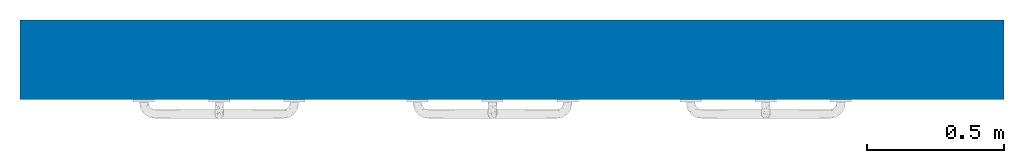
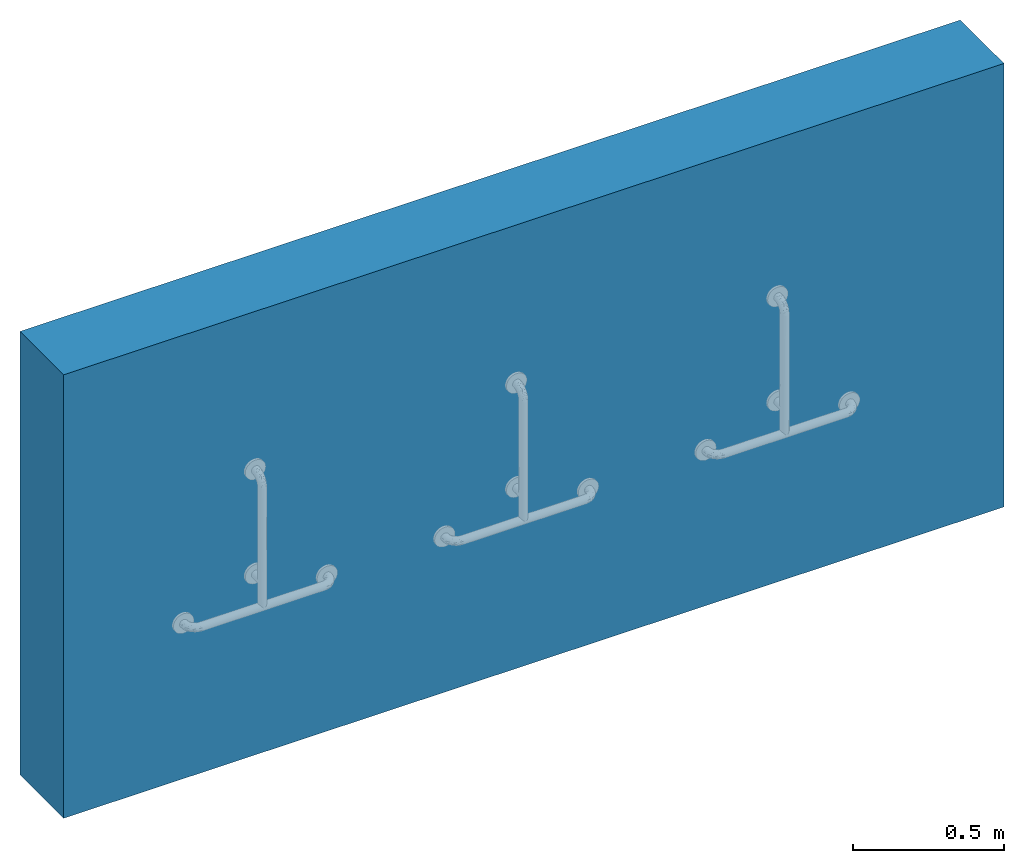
# One storey, incomplete: 1 wall.
"""IFC2X3 building model written with IfcOpenShell, lengths in millimetres."""

from ifc_helpers import new_model, entity, si_unit, converted_unit, derived_unit, direction, frame, frame_2d, origin, place, context, subcontext, project, spatial, rectangle, extrude, material, layer, layer_set, layer_usage, type_object, element, save


model = new_model("IFC2X3")

# Units and contexts
model_context = context("Model", 3, precision=0.01, world=origin(), true_north=direction((6.12303176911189e-17, 1.0)))
context_of_model = context(None, 3, precision=0.01, world=origin(), true_north=direction((6.12303176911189e-17, 1.0)))
body_context = subcontext(model_context, "Body", "Model", "MODEL_VIEW")
ifc_project = project(units=[si_unit("LENGTHUNIT", "METRE", prefix="MILLI"), si_unit("AREAUNIT", "SQUARE_METRE"), si_unit("VOLUMEUNIT", "CUBIC_METRE"), converted_unit("PLANEANGLEUNIT", "DEGREE", entity("IfcRatioMeasure", 0.0174532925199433), si_unit("PLANEANGLEUNIT", "RADIAN"), dimensions=[0, 0, 0, 0, 0, 0, 0]), si_unit("MASSUNIT", "GRAM", prefix="KILO"), derived_unit("MASSDENSITYUNIT", [(si_unit("MASSUNIT", "GRAM", prefix="KILO"), 1), (si_unit("LENGTHUNIT", "METRE"), -3)]), si_unit("TIMEUNIT", "SECOND"), si_unit("FREQUENCYUNIT", "HERTZ"), si_unit("THERMODYNAMICTEMPERATUREUNIT", "DEGREE_CELSIUS"), derived_unit("THERMALTRANSMITTANCEUNIT", [(si_unit("MASSUNIT", "GRAM", prefix="KILO"), 1), (si_unit("THERMODYNAMICTEMPERATUREUNIT", "KELVIN"), -1), (si_unit("TIMEUNIT", "SECOND"), -3)]), derived_unit("VOLUMETRICFLOWRATEUNIT", [(si_unit("LENGTHUNIT", "METRE"), 3), (si_unit("TIMEUNIT", "SECOND"), -1)]), si_unit("ELECTRICCURRENTUNIT", "AMPERE"), si_unit("ELECTRICVOLTAGEUNIT", "VOLT"), si_unit("POWERUNIT", "WATT"), si_unit("FORCEUNIT", "NEWTON", prefix="KILO"), si_unit("ILLUMINANCEUNIT", "LUX"), si_unit("LUMINOUSFLUXUNIT", "LUMEN"), si_unit("LUMINOUSINTENSITYUNIT", "CANDELA"), derived_unit("USERDEFINED", [(si_unit("MASSUNIT", "GRAM", prefix="KILO"), -1), (si_unit("LENGTHUNIT", "METRE"), -2), (si_unit("TIMEUNIT", "SECOND"), 3), (si_unit("LUMINOUSFLUXUNIT", "LUMEN"), 1)]), derived_unit("LINEARVELOCITYUNIT", [(si_unit("LENGTHUNIT", "METRE"), 1), (si_unit("TIMEUNIT", "SECOND"), -1)]), si_unit("PRESSUREUNIT", "PASCAL"), derived_unit("USERDEFINED", [(si_unit("LENGTHUNIT", "METRE"), -2), (si_unit("MASSUNIT", "GRAM", prefix="KILO"), 1), (si_unit("TIMEUNIT", "SECOND"), -2)])], contexts=[model_context, context_of_model])

# Site, building, storey
site_placement = place(None, origin())
site = spatial("IfcSite", under=ifc_project, at=site_placement, Name="Default", CompositionType="ELEMENT")
building_placement = place(site_placement, origin())
building = spatial("IfcBuilding", under=site, at=building_placement, CompositionType="ELEMENT")
storey_placement = place(building_placement, origin())
storey = spatial("IfcBuildingStorey", under=building, at=storey_placement, Name="Level 0", CompositionType="ELEMENT", Elevation=0.0)

# Wall
ifc_material_1 = material(Name="Brick, Common")
ifc_layer_1 = layer(ifc_material_1, 102.5)
ifc_material_2 = material(Name="Fiberglass Batt")
ifc_layer_2 = layer(ifc_material_2, 75.0)
ifc_material_3 = material(Name="Concrete Masonry Units _Low Density")
ifc_layer_3 = layer(ifc_material_3, 100.0)
ifc_material_4 = material(Name="Plaster")
ifc_layer_4 = layer(ifc_material_4, 12.5)
ifc_layer_set = layer_set([ifc_layer_1, ifc_layer_2, ifc_layer_3, ifc_layer_4], Name="Basic Wall:Wall-Ext_102Bwk-75Ins-100LBlk-12P")
ifc_layer_usage = layer_usage(ifc_layer_set, "AXIS2", "NEGATIVE", 145.0)
wall_type = type_object("IfcWallType", Name="(2)", PredefinedType="STANDARD", material=ifc_layer_set)
wall_placement = place(storey_placement, frame((-6948.74604333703, 637.988490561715, 0.0)))
element("IfcWallStandardCase", 1, at=wall_placement, inside=storey, type_object=wall_type, material=ifc_layer_usage, ObjectType="Basic Wall:Wall-Ext_102Bwk-75Ins-100LBlk-12P", context=body_context, shape_type="SweptSolid", body=[
    extrude(rectangle(XDim=3600.0, YDim=290.0, at=frame_2d((1800.0, -5.6843418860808e-14), x_axis=(-1.0, 0.0))), origin(), (0.0, 0.0, 1.0), 1795.16245151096),
])

save(model, "model.ifc")
